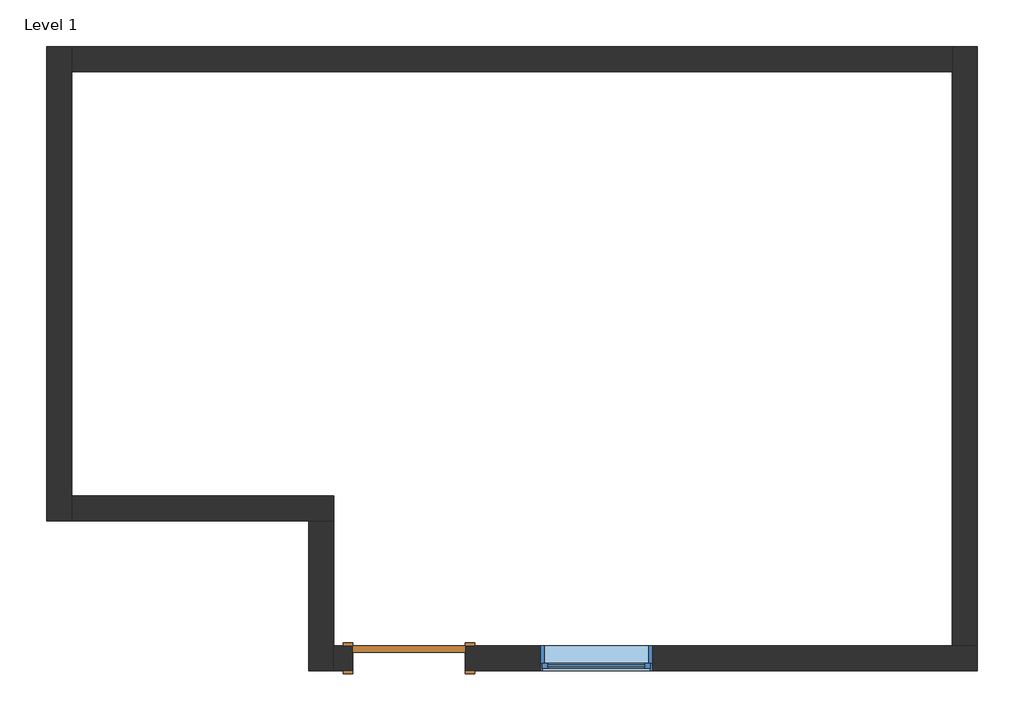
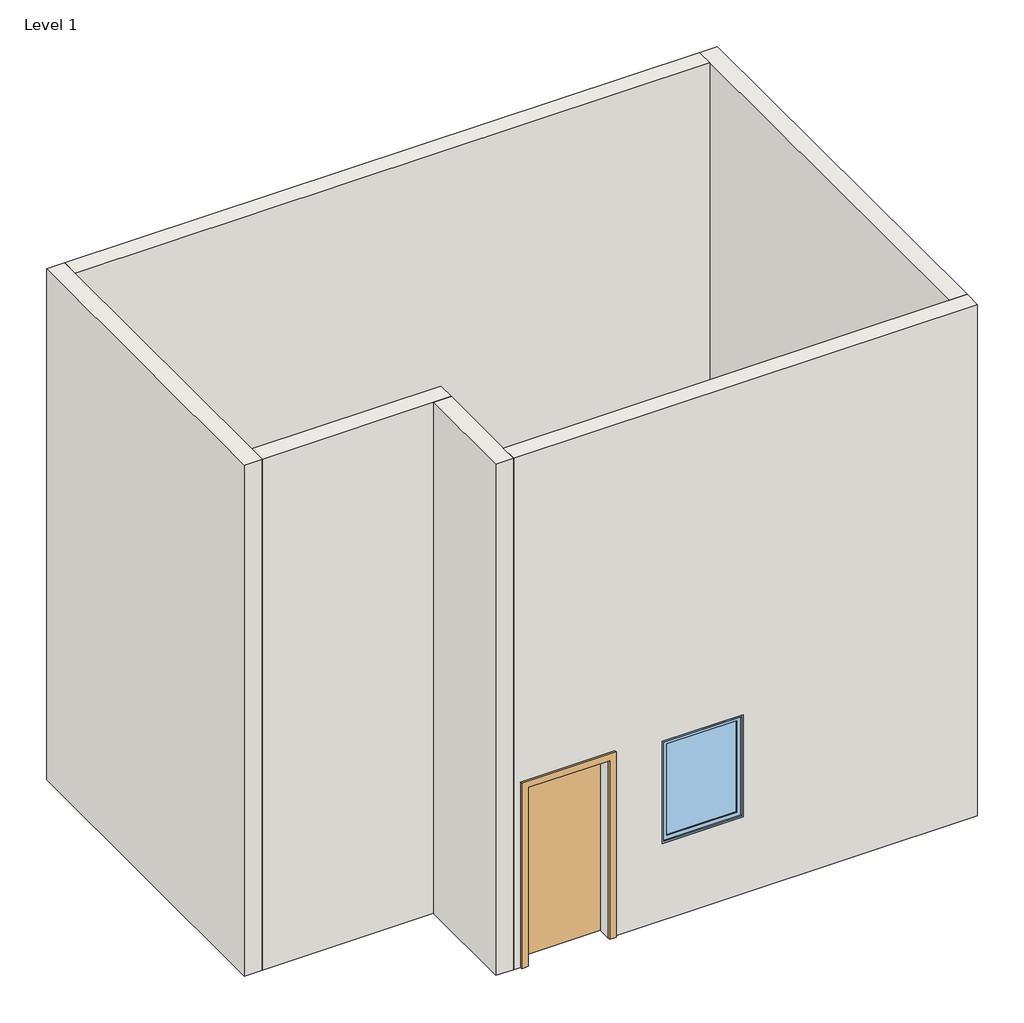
# One storey: 6 walls, 1 door, 1 window.
"""IFC4 building model written with IfcOpenShell, lengths in millimetres."""

from ifc_helpers import new_model, si_unit, origin, origin_with_axes, place, context, project, spatial, polyline, outline, extrude, faceted_brep, transform, mapped, element, save
from components import door_719f80de, window_e2841890

model = new_model("IFC4")

# Units and contexts
model_context = context("Model", 3, world=origin())
ifc_project = project(units=[si_unit("LENGTHUNIT", "METRE", prefix="MILLI")], contexts=[model_context])

# Site, building, storey
site = spatial("IfcSite", under=ifc_project)
building = spatial("IfcBuilding", under=site)
storey = spatial("IfcBuildingStorey", under=building, Name="Level 1", Elevation=0.0)

# Door
placement = place(None, origin())
door_shape = door_719f80de(model_context)
element("IfcDoor", 1, ObjectType="Single-Flush : 36\" x 84\"", at=placement, inside=storey, context=model_context, shape_type="MappedRepresentation", body=[
    mapped(door_shape, transform((-10262.5686925, 7572.1721531, 0.0), x_axis=(-1.0, 0.0, 0.0), y_axis=(0.0, -1.0, 0.0), z_axis=(0.0, 0.0, 1.0))),
])

# Walls
element("IfcWall", 2, ObjectType="Generic - 8\"", at=placement, inside=storey, context=model_context, shape_type="Brep", body=[
    faceted_brep([(-13208.9686925, 12550.5721531, 0.0), (-13208.9686925, 8689.7721531, 0.0), (-13208.9686925, 8689.7721531, 6096.0), (-13208.9686925, 12550.5721531, 6096.0), (-13005.7686925, 12550.5721531, 0.0), (-13005.7686925, 12550.5721531, 6096.0), (-13005.7686925, 12347.3721531, 6096.0), (-13005.7686925, 8892.9721531, 6096.0), (-13005.7686925, 8689.7721531, 6096.0), (-13005.7686925, 8689.7721531, 0.0), (-13005.7686925, 8892.9721531, 0.0), (-13005.7686925, 12347.3721531, 0.0)], [[[0, 1, 2, 3]], [[4, 5, 6, 7, 8, 9, 10, 11]], [[1, 0, 4, 11, 10, 9]], [[3, 2, 8, 7, 6, 5]], [[2, 1, 9, 8]], [[0, 3, 5, 4]]]),
])
element("IfcWall", 3, ObjectType="Generic - 8\"", at=placement, inside=storey, context=model_context, shape_type="Brep", body=[
    faceted_brep([(-13005.7686925, 8689.7721531, 0.0), (-11075.3686925, 8689.7721531, 0.0), (-10872.1686925, 8689.7721531, 0.0), (-10872.1686925, 8689.7721531, 6096.0), (-11075.3686925, 8689.7721531, 6096.0), (-13005.7686925, 8689.7721531, 6096.0), (-13005.7686925, 8892.9721531, 0.0), (-13005.7686925, 8892.9721531, 6096.0), (-10872.1686925, 8892.9721531, 6096.0), (-10872.1686925, 8892.9721531, 0.0)], [[[0, 1, 2, 3, 4, 5]], [[6, 7, 8, 9]], [[2, 1, 0, 6, 9]], [[5, 4, 3, 8, 7]], [[0, 5, 7, 6]], [[3, 2, 9, 8]]]),
])
element("IfcWall", 4, ObjectType="Generic - 8\"", at=placement, inside=storey, context=model_context, shape_type="Brep", body=[
    faceted_brep([(-11075.3686925, 8689.7721531, 0.0), (-11075.3686925, 7470.5721531, 0.0), (-11075.3686925, 7470.5721531, 6096.0), (-11075.3686925, 8689.7721531, 6096.0), (-10872.1686925, 8689.7721531, 0.0), (-10872.1686925, 8689.7721531, 6096.0), (-10872.1686925, 7673.7721531, 6096.0), (-10872.1686925, 7470.5721531, 6096.0), (-10872.1686925, 7470.5721531, 0.0), (-10872.1686925, 7673.7721531, 0.0)], [[[0, 1, 2, 3]], [[4, 5, 6, 7, 8, 9]], [[1, 0, 4, 9, 8]], [[3, 2, 7, 6, 5]], [[0, 3, 5, 4]], [[2, 1, 8, 7]]]),
])
element("IfcWall", 5, ObjectType="Generic - 8\"", at=placement, inside=storey, context=model_context, shape_type="Brep", body=[
    faceted_brep([(-10872.1686925, 7470.5721531, 0.0), (-10719.7686925, 7470.5721531, 0.0), (-10719.7686925, 7470.5721531, 2133.6), (-9805.3686925, 7470.5721531, 2133.6), (-9805.3686925, 7470.5721531, 0.0), (-5639.7686925, 7470.5721531, 0.0), (-5639.7686925, 7470.5721531, 6096.0), (-10872.1686925, 7470.5721531, 6096.0), (-9195.7686925, 7470.5721531, 2133.6), (-8281.3686925, 7470.5721531, 2133.6), (-8281.3686925, 7470.5721531, 914.4), (-9195.7686925, 7470.5721531, 914.4), (-10719.7686925, 7673.7721531, 2133.6), (-10719.7686925, 7673.7721531, 0.0), (-10872.1686925, 7673.7721531, 0.0), (-10872.1686925, 7673.7721531, 6096.0), (-5842.9686925, 7673.7721531, 6096.0), (-5639.7686925, 7673.7721531, 6096.0), (-5639.7686925, 7673.7721531, 0.0), (-5842.9686925, 7673.7721531, 0.0), (-9805.3686925, 7673.7721531, 0.0), (-9805.3686925, 7673.7721531, 2133.6), (-9195.7686925, 7673.7721531, 2133.6), (-9195.7686925, 7673.7721531, 914.4), (-8281.3686925, 7673.7721531, 914.4), (-8281.3686925, 7673.7721531, 2133.6)], [[[0, 1, 2, 3, 4, 5, 6, 7], [8, 9, 10, 11]], [[12, 13, 14, 15, 16, 17, 18, 19, 20, 21], [22, 23, 24, 25]], [[14, 13, 1, 0]], [[20, 19, 18, 5, 4]], [[7, 6, 17, 16, 15]], [[0, 7, 15, 14]], [[6, 5, 18, 17]], [[2, 1, 13, 12]], [[3, 2, 12, 21]], [[4, 3, 21, 20]], [[23, 22, 8, 11]], [[24, 23, 11, 10]], [[25, 24, 10, 9]], [[22, 25, 9, 8]]]),
])
element("IfcWall", 6, ObjectType="Generic - 8\"", at=placement, inside=storey, context=model_context, shape_type="Brep", body=[
    faceted_brep([(-5639.7686925, 7673.7721531, 0.0), (-5639.7686925, 12550.5721531, 0.0), (-5639.7686925, 12550.5721531, 6096.0), (-5639.7686925, 7673.7721531, 6096.0), (-5842.9686925, 7673.7721531, 0.0), (-5842.9686925, 7673.7721531, 6096.0), (-5842.9686925, 12347.3721531, 6096.0), (-5842.9686925, 12550.5721531, 6096.0), (-5842.9686925, 12550.5721531, 0.0), (-5842.9686925, 12347.3721531, 0.0)], [[[0, 1, 2, 3]], [[4, 5, 6, 7, 8, 9]], [[1, 0, 4, 9, 8]], [[3, 2, 7, 6, 5]], [[0, 3, 5, 4]], [[2, 1, 8, 7]]]),
])
element("IfcWall", 7, ObjectType="Generic - 8\"", at=placement, inside=storey, context=model_context, shape_type="SweptSolid", body=[
    extrude(outline(polyline([(-13005.7686925, 12550.5721531), (-5842.9686925, 12550.5721531), (-5842.9686925, 12347.3721531), (-13005.7686925, 12347.3721531), (-13005.7686925, 12550.5721531)])), origin_with_axes(), (0.0, 0.0, 1.0), 6096.0),
])

# Window
window_shape = window_e2841890(model_context)
element("IfcWindow", 8, ObjectType="Fixed : 36\" x 48\"", at=placement, inside=storey, context=model_context, shape_type="MappedRepresentation", body=[
    mapped(window_shape, transform((-8776.6686925, 7572.1721531, 0.0), x_axis=(-1.0, 0.0, 0.0), y_axis=(0.0, -1.0, 0.0), z_axis=(0.0, 0.0, 1.0))),
])

save(model, "model.ifc")
